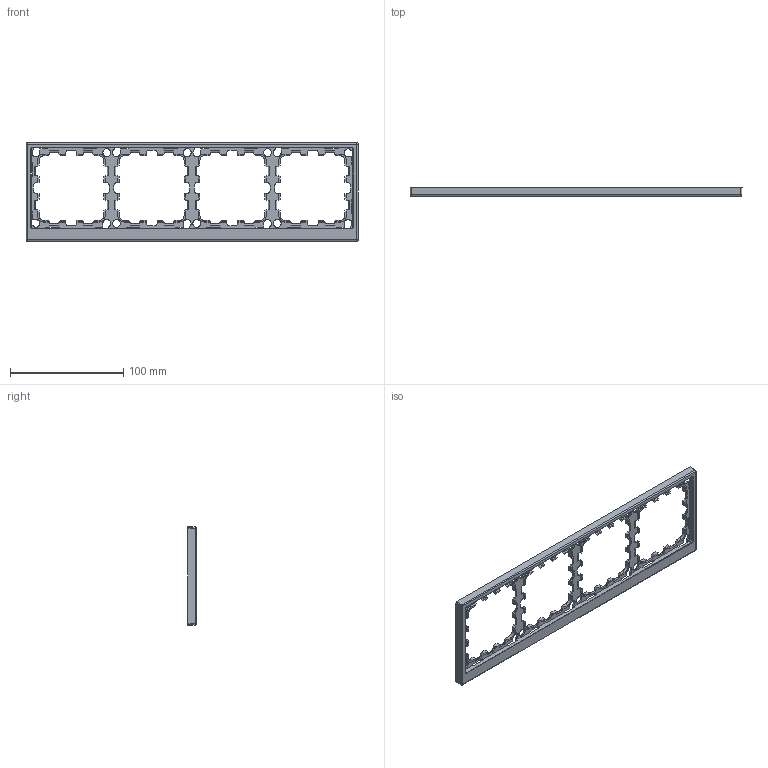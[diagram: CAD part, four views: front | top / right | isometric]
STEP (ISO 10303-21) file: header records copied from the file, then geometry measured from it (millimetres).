
FILE_DESCRIPTION (( 'STEP AP203' ), '1' );
FILE_NAME ('7000908.STEP', '2025-12-04T13:25:48', ( '' ), ( '' ), 'SwSTEP 2.0', 'SolidWorks 2022', '' );
FILE_SCHEMA (( 'CONFIG_CONTROL_DESIGN' ));
Length unit declared in the file: millimetre
Products named in the file (1): 7000908
Bounding box: 293 x 7.3 x 87 mm (x, y, z)
Volume: 25750 mm3; surface area: 38540.3 mm2
Topology: 1 solids, 1 shells, 736 faces, 2291 edges, 1516 vertices
Faces by surface type: plane 551, cylinder 147, cone 26, sphere 4, bspline 4, torus 4
Entity records: 25658 total; most frequent: CARTESIAN_POINT 4936, ORIENTED_EDGE 4574, DIRECTION 4035, EDGE_CURVE 2287, VECTOR 1925, LINE 1925, VERTEX_POINT 1516, AXIS2_PLACEMENT_3D 1055
